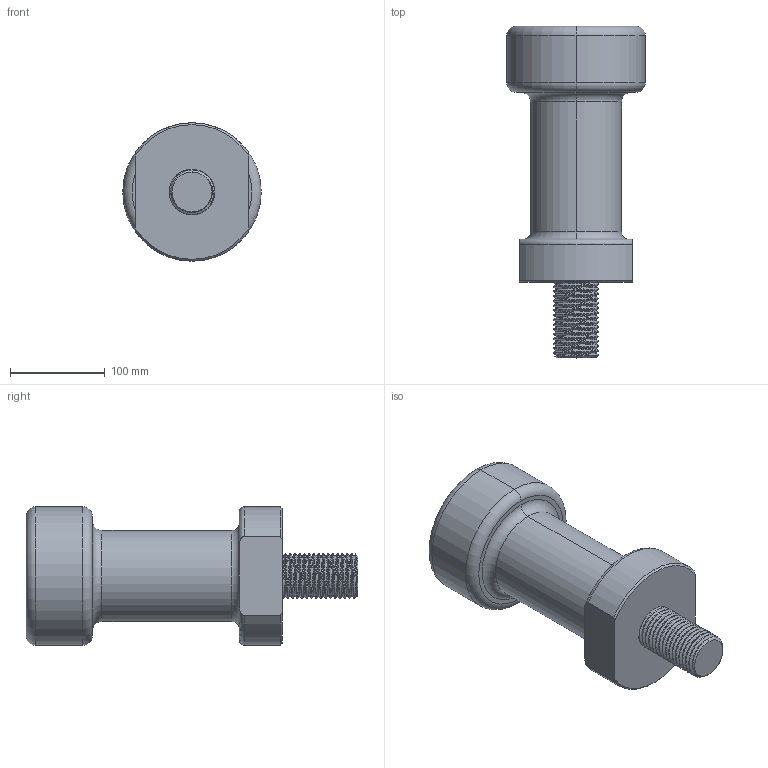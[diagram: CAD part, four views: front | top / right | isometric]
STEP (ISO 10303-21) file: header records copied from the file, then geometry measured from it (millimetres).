
FILE_DESCRIPTION (( 'STEP AP203' ), '1' );
FILE_NAME ('Plots_M48.STEP', '2022-03-14T16:28:53', ( '' ), ( '' ), 'SwSTEP 2.0', 'SolidWorks 2021', '' );
FILE_SCHEMA (( 'CONFIG_CONTROL_DESIGN' ));
Length unit declared in the file: millimetre
Products named in the file (1): Plots_M48
Bounding box: 146 x 350 x 146 mm (x, y, z)
Volume: 3095798.5 mm3; surface area: 162733.4 mm2
Topology: 1 solids, 1 shells, 67 faces, 175 edges, 113 vertices
Faces by surface type: cylinder 39, torus 11, plane 8, cone 5, bspline 4
Entity records: 7873 total; most frequent: CARTESIAN_POINT 6354, ORIENTED_EDGE 350, DIRECTION 265, EDGE_CURVE 175, VERTEX_POINT 113, AXIS2_PLACEMENT_3D 107, EDGE_LOOP 70, ADVANCED_FACE 67
